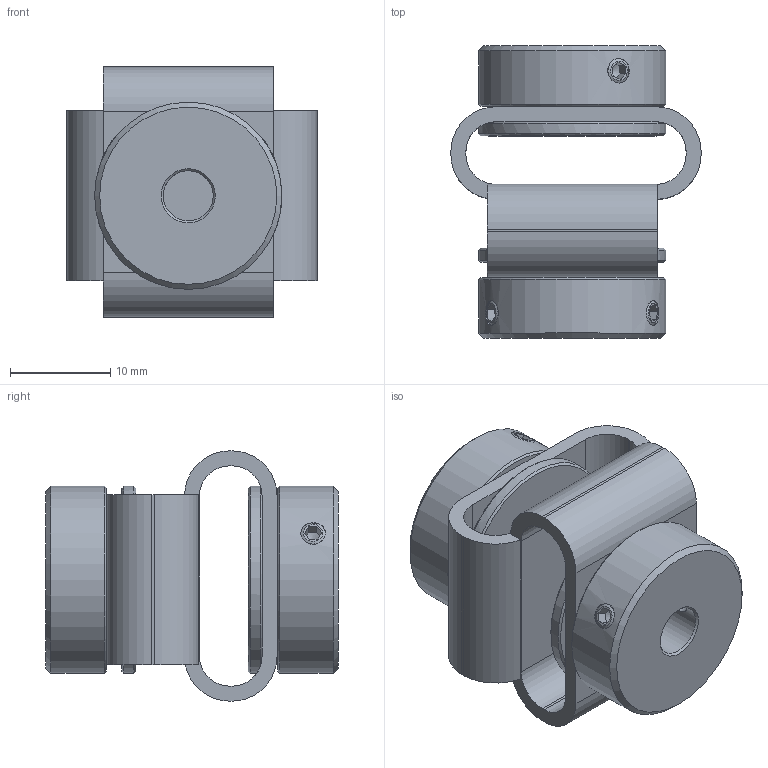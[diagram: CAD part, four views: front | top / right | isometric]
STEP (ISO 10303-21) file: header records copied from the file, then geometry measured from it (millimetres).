
FILE_DESCRIPTION(/* description */ (''),/* implementation_level */ '2;1');
FILE_NAME(/* name */ 'Z:\ABP-Antriebstechnik\Entwicklung-3D\Paguflex\DKPS 2928 05 05.stp',/* time_stamp */ '2017-06-30T07:48:32+02:00',/* author */ ('werner.boesinger'),/* organization */ (''),/* preprocessor_version */ 'ST-DEVELOPER v16.1',/* originating_system */ 'Autodesk Inventor 2016',/* authorisation */ '');
FILE_SCHEMA (('AUTOMOTIVE_DESIGN { 1 0 10303 214 3 1 1 }'));
Length unit declared in the file: millimetre
Products named in the file (1): DKPS 2928 05 05
Bounding box: 25 x 29.2 x 25 mm (x, y, z)
Volume: 6037.4 mm3; surface area: 5419.9 mm2
Topology: 1 solids, 3 shells, 154 faces, 366 edges, 226 vertices
Faces by surface type: plane 90, cylinder 36, cone 28
Full cylindrical faces by diameter (mm): 2.459 x8, 5 x2, 12.5 x2, 14 x4, 18.7 x4
Entity records: 4367 total; most frequent: CARTESIAN_POINT 961, DIRECTION 694, ORIENTED_EDGE 572, EDGE_CURVE 286, AXIS2_PLACEMENT_3D 273, EDGE_LOOP 220, VERTEX_POINT 192, STYLED_ITEM 155
